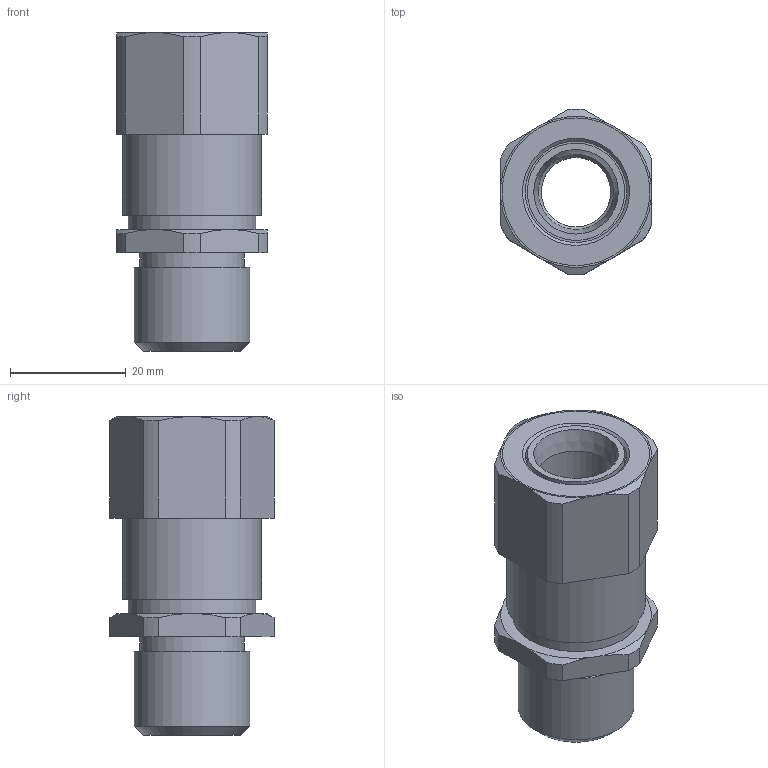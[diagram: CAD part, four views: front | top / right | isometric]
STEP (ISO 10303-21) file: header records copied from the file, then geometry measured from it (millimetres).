
FILE_DESCRIPTION((''),'2;1');
FILE_NAME('C:\Users\A.V.Nesterov\Desktop\111\3D\ТЗ\ТЗ 108157\КНВ1MНК_3D.stp','2024-07-11T22:57:08',('A.V.Nesterov'),(''),'Autodesk Inventor 2012','Autodesk Inventor 2012','');
FILE_SCHEMA(('AUTOMOTIVE_DESIGN { 1 0 10303 214 1 1 1 1 }'));
Length unit declared in the file: millimetre
Products named in the file (1): КНВ1MНК_3D
Bounding box: 26 x 28.48 x 55 mm (x, y, z)
Surface area: 10975 mm2 (no closed solid volume)
Topology: 0 solids, 3 shells, 72 faces, 167 edges, 110 vertices
Faces by surface type: plane 27, cylinder 26, cone 19
Full cylindrical faces by diameter (mm): 12 x1, 13 x1, 16 x1, 16.8 x1, 17.5 x1, 18 x1, 19.5 x1, 20 x2, 21.5 x1, 22 x1, 22.376 x1, 24 x1, 25.5 x1
Entity records: 2017 total; most frequent: CARTESIAN_POINT 369, DIRECTION 334, ORIENTED_EDGE 284, AXIS2_PLACEMENT_3D 143, EDGE_CURVE 142, EDGE_LOOP 108, VERTEX_POINT 106, FACE_OUTER_BOUND 72
